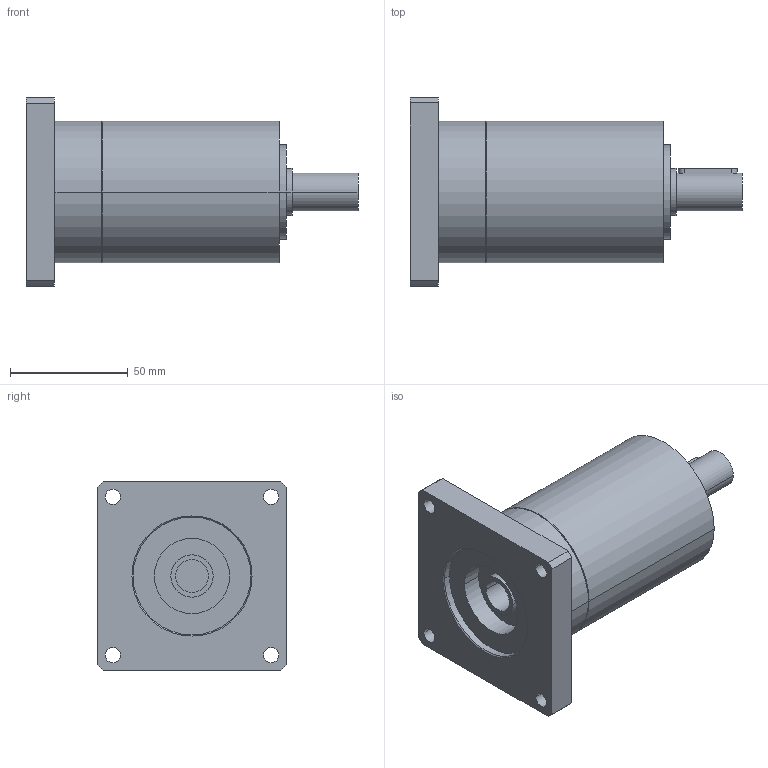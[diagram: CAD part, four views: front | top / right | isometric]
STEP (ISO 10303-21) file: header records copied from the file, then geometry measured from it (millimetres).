
FILE_DESCRIPTION(('CoCreate Modeling STEP Export'),'2;1');
FILE_NAME('GPR75_ig-9-12-16-20-24-30-36_16_B14_14_P27.stp','2014-08-25T16:03:37',(''),(''),'CoCreate Modeling STEP processor for AP214 (Solid Model)','CoCreate Modeling 16.00C 25-Feb-2009 (C) Parametric Technology GmbH','');
FILE_SCHEMA(('AUTOMOTIVE_DESIGN { 1 0 10303 214 1 1 1 1 }'));
Length unit declared in the file: millimetre
Products named in the file (2): GPR75_ig-9-12-16-20-24-30-36_16_B14_14_P27
Assembly tree (1 placements, depth 2):
  GPR75_ig-9-12-16-20-24-30-36_16_B14_14_P27
    GPR75_ig-9-12-16-20-24-30-36_16_B14_14_P27
Bounding box: 140.9 x 80 x 80 mm (x, y, z)
Volume: 337306.2 mm3; surface area: 41151.2 mm2
Topology: 1 solids, 1 shells, 72 faces, 186 edges, 128 vertices
Faces by surface type: cylinder 42, plane 22, cone 8
Entity records: 1949 total; most frequent: ORIENTED_EDGE 368, CARTESIAN_POINT 360, DIRECTION 268, EDGE_CURVE 184, VERTEX_POINT 128, AXIS2_PLACEMENT_3D 100, EDGE_LOOP 94, FACE_OUTER_BOUND 72
